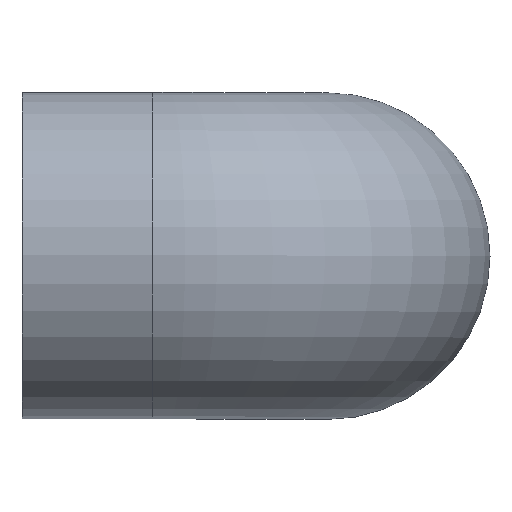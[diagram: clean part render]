
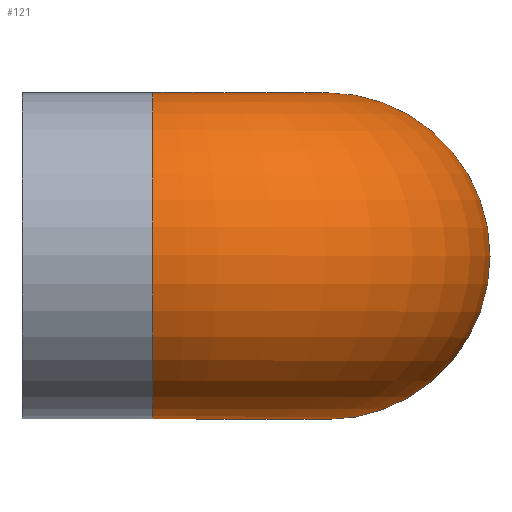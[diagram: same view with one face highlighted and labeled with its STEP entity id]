
A CAD part, top view. The second image highlights one B-rep face of the part: STEP entity #121.
In plain terms, the highlighted toroidal (fillet/blend) face has major radius 32 mm and minor radius 30 mm.
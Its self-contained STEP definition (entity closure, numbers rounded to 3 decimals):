
#29=FACE_BOUND('',#56,.T.);
#39=FACE_OUTER_BOUND('',#55,.T.);
#55=EDGE_LOOP('',(#105));
#56=EDGE_LOOP('',(#106));
#70=CIRCLE('',#140,30.);
#71=CIRCLE('',#142,30.);
#80=VERTEX_POINT('',#210);
#81=VERTEX_POINT('',#213);
#90=EDGE_CURVE('',#80,#80,#70,.T.);
#91=EDGE_CURVE('',#81,#81,#71,.T.);
#105=ORIENTED_EDGE('',*,*,#90,.F.);
#106=ORIENTED_EDGE('',*,*,#91,.T.);
#114=TOROIDAL_SURFACE('',#141,32.,30.);
#121=ADVANCED_FACE('',(#39,#29),#114,.T.);
#140=AXIS2_PLACEMENT_3D('',#211,#175,#176);
#141=AXIS2_PLACEMENT_3D('',#212,#177,#178);
#142=AXIS2_PLACEMENT_3D('',#214,#179,#180);
#175=DIRECTION('center_axis',(-1.,0.,0.));
#176=DIRECTION('ref_axis',(0.,0.,-1.));
#177=DIRECTION('center_axis',(0.,-1.,0.));
#178=DIRECTION('ref_axis',(0.,0.,-1.));
#179=DIRECTION('center_axis',(0.,0.,1.));
#180=DIRECTION('ref_axis',(-1.,0.,0.));
#210=CARTESIAN_POINT('',(-32.,0.,86.));
#211=CARTESIAN_POINT('Origin',(-32.,0.,56.));
#212=CARTESIAN_POINT('Origin',(-32.,0.,24.));
#213=CARTESIAN_POINT('',(30.,0.,24.));
#214=CARTESIAN_POINT('Origin',(0.,0.,24.));
